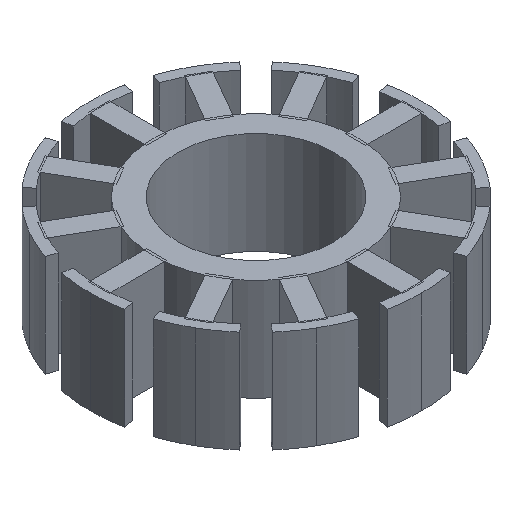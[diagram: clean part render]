
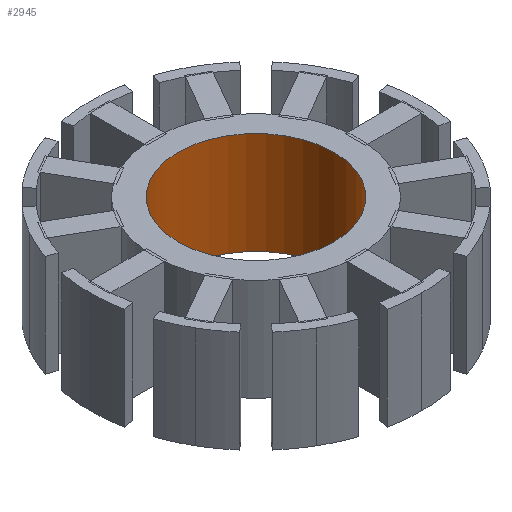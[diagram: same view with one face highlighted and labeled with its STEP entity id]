
A CAD part, isometric view. The second image highlights one B-rep face of the part: STEP entity #2945.
In plain terms, the highlighted cylindrical face has radius 3.05 mm (diameter 6.1 mm), a full revolution.
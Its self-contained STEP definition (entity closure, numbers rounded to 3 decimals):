
#97 = PLANE('',#98);
#98 = AXIS2_PLACEMENT_3D('',#99,#100,#101);
#99 = CARTESIAN_POINT('',(0.,0.,2.3));
#100 = DIRECTION('',(0.,0.,1.));
#101 = DIRECTION('',(1.,0.,-0.));
#1433 = EDGE_CURVE('',#1434,#1434,#1436,.T.);
#1434 = VERTEX_POINT('',#1435);
#1435 = CARTESIAN_POINT('',(3.05,0.,2.3));
#1436 = SURFACE_CURVE('',#1437,(#1442,#1449),.PCURVE_S1.);
#1437 = CIRCLE('',#1438,3.05);
#1438 = AXIS2_PLACEMENT_3D('',#1439,#1440,#1441);
#1439 = CARTESIAN_POINT('',(0.,0.,2.3));
#1440 = DIRECTION('',(0.,0.,1.));
#1441 = DIRECTION('',(1.,0.,-0.));
#1442 = PCURVE('',#97,#1443);
#1443 = DEFINITIONAL_REPRESENTATION('',(#1444),#1448);
#1444 = CIRCLE('',#1445,3.05);
#1445 = AXIS2_PLACEMENT_2D('',#1446,#1447);
#1446 = CARTESIAN_POINT('',(0.,0.));
#1447 = DIRECTION('',(1.,0.));
#1448 = ( GEOMETRIC_REPRESENTATION_CONTEXT(2) 
PARAMETRIC_REPRESENTATION_CONTEXT() REPRESENTATION_CONTEXT('2D SPACE',''
  ) );
#1449 = PCURVE('',#1450,#1455);
#1450 = CYLINDRICAL_SURFACE('',#1451,3.05);
#1451 = AXIS2_PLACEMENT_3D('',#1452,#1453,#1454);
#1452 = CARTESIAN_POINT('',(0.,0.,2.29));
#1453 = DIRECTION('',(0.,0.,1.));
#1454 = DIRECTION('',(1.,0.,-0.));
#1455 = DEFINITIONAL_REPRESENTATION('',(#1456),#1460);
#1456 = LINE('',#1457,#1458);
#1457 = CARTESIAN_POINT('',(0.,0.01));
#1458 = VECTOR('',#1459,1.);
#1459 = DIRECTION('',(1.,0.));
#1460 = ( GEOMETRIC_REPRESENTATION_CONTEXT(2) 
PARAMETRIC_REPRESENTATION_CONTEXT() REPRESENTATION_CONTEXT('2D SPACE',''
  ) );
#1712 = PLANE('',#1713);
#1713 = AXIS2_PLACEMENT_3D('',#1714,#1715,#1716);
#1714 = CARTESIAN_POINT('',(0.,0.,6.3));
#1715 = DIRECTION('',(0.,0.,1.));
#1716 = DIRECTION('',(1.,0.,-0.));
#2945 = ADVANCED_FACE('',(#2946),#1450,.F.);
#2946 = FACE_BOUND('',#2947,.F.);
#2947 = EDGE_LOOP('',(#2948,#2972,#2993,#2994));
#2948 = ORIENTED_EDGE('',*,*,#2949,.F.);
#2949 = EDGE_CURVE('',#2950,#2950,#2952,.T.);
#2950 = VERTEX_POINT('',#2951);
#2951 = CARTESIAN_POINT('',(3.05,0.,6.3));
#2952 = SURFACE_CURVE('',#2953,(#2958,#2965),.PCURVE_S1.);
#2953 = CIRCLE('',#2954,3.05);
#2954 = AXIS2_PLACEMENT_3D('',#2955,#2956,#2957);
#2955 = CARTESIAN_POINT('',(0.,0.,6.3));
#2956 = DIRECTION('',(0.,0.,1.));
#2957 = DIRECTION('',(1.,0.,-0.));
#2958 = PCURVE('',#1450,#2959);
#2959 = DEFINITIONAL_REPRESENTATION('',(#2960),#2964);
#2960 = LINE('',#2961,#2962);
#2961 = CARTESIAN_POINT('',(0.,4.01));
#2962 = VECTOR('',#2963,1.);
#2963 = DIRECTION('',(1.,0.));
#2964 = ( GEOMETRIC_REPRESENTATION_CONTEXT(2) 
PARAMETRIC_REPRESENTATION_CONTEXT() REPRESENTATION_CONTEXT('2D SPACE',''
  ) );
#2965 = PCURVE('',#1712,#2966);
#2966 = DEFINITIONAL_REPRESENTATION('',(#2967),#2971);
#2967 = CIRCLE('',#2968,3.05);
#2968 = AXIS2_PLACEMENT_2D('',#2969,#2970);
#2969 = CARTESIAN_POINT('',(0.,0.));
#2970 = DIRECTION('',(1.,0.));
#2971 = ( GEOMETRIC_REPRESENTATION_CONTEXT(2) 
PARAMETRIC_REPRESENTATION_CONTEXT() REPRESENTATION_CONTEXT('2D SPACE',''
  ) );
#2972 = ORIENTED_EDGE('',*,*,#2973,.F.);
#2973 = EDGE_CURVE('',#1434,#2950,#2974,.T.);
#2974 = SEAM_CURVE('',#2975,(#2979,#2986),.PCURVE_S1.);
#2975 = LINE('',#2976,#2977);
#2976 = CARTESIAN_POINT('',(3.05,0.,2.29));
#2977 = VECTOR('',#2978,1.);
#2978 = DIRECTION('',(0.,0.,1.));
#2979 = PCURVE('',#1450,#2980);
#2980 = DEFINITIONAL_REPRESENTATION('',(#2981),#2985);
#2981 = LINE('',#2982,#2983);
#2982 = CARTESIAN_POINT('',(6.283,-0.));
#2983 = VECTOR('',#2984,1.);
#2984 = DIRECTION('',(0.,1.));
#2985 = ( GEOMETRIC_REPRESENTATION_CONTEXT(2) 
PARAMETRIC_REPRESENTATION_CONTEXT() REPRESENTATION_CONTEXT('2D SPACE',''
  ) );
#2986 = PCURVE('',#1450,#2987);
#2987 = DEFINITIONAL_REPRESENTATION('',(#2988),#2992);
#2988 = LINE('',#2989,#2990);
#2989 = CARTESIAN_POINT('',(0.,-0.));
#2990 = VECTOR('',#2991,1.);
#2991 = DIRECTION('',(0.,1.));
#2992 = ( GEOMETRIC_REPRESENTATION_CONTEXT(2) 
PARAMETRIC_REPRESENTATION_CONTEXT() REPRESENTATION_CONTEXT('2D SPACE',''
  ) );
#2993 = ORIENTED_EDGE('',*,*,#1433,.T.);
#2994 = ORIENTED_EDGE('',*,*,#2973,.T.);
